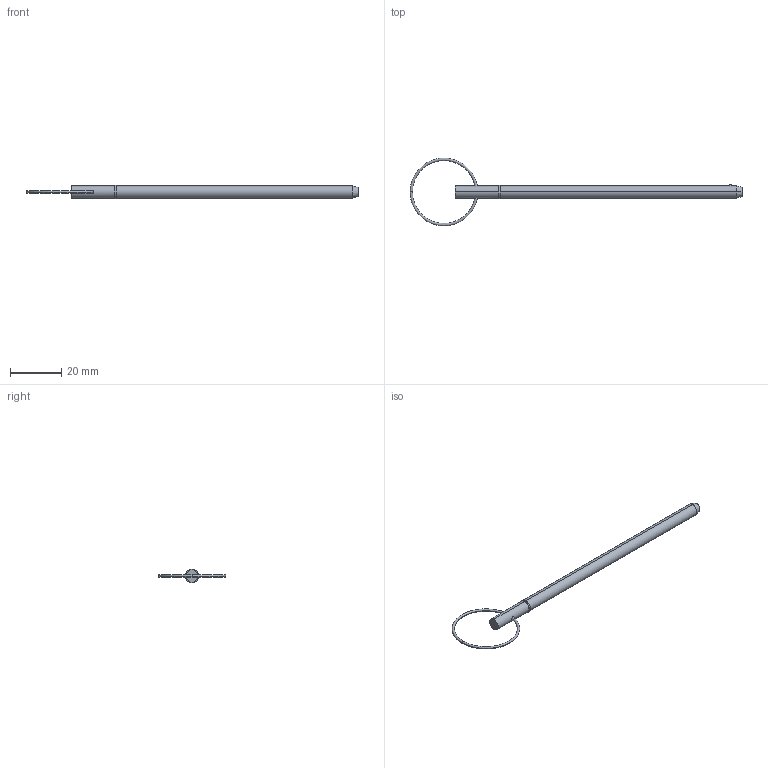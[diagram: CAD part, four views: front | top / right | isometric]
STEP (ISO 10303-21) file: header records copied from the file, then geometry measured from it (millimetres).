
FILE_DESCRIPTION (( 'STEP AP203' ), '1' );
FILE_NAME ('33014.W1835.step', '2024-11-04T08:22:53', ( '' ), ( '' ), 'SwSTEP 2.0', 'SolidWorks 2019', '' );
FILE_SCHEMA (( 'CONFIG_CONTROL_DESIGN' ));
Length unit declared in the file: millimetre
Products named in the file (3): 33014.W1835; Part2_33014.W1835; Part1_33014.W1835
Assembly tree (2 placements, depth 2):
  33014.W1835
    Part1_33014.W1835
    Part2_33014.W1835
Bounding box: 128.96 x 26.35 x 5.24 mm (x, y, z)
Volume: 2027.5 mm3; surface area: 1953.8 mm2
Topology: 2 solids, 2 shells, 22 faces, 43 edges, 26 vertices
Faces by surface type: torus 8, cylinder 6, plane 4, sphere 2, cone 2
Entity records: 939 total; most frequent: CARTESIAN_POINT 162, DIRECTION 120, ORIENTED_EDGE 86, AXIS2_PLACEMENT_3D 56, EDGE_CURVE 43, CIRCLE 29, EDGE_LOOP 27, PERSON_AND_ORGANIZATION 26
